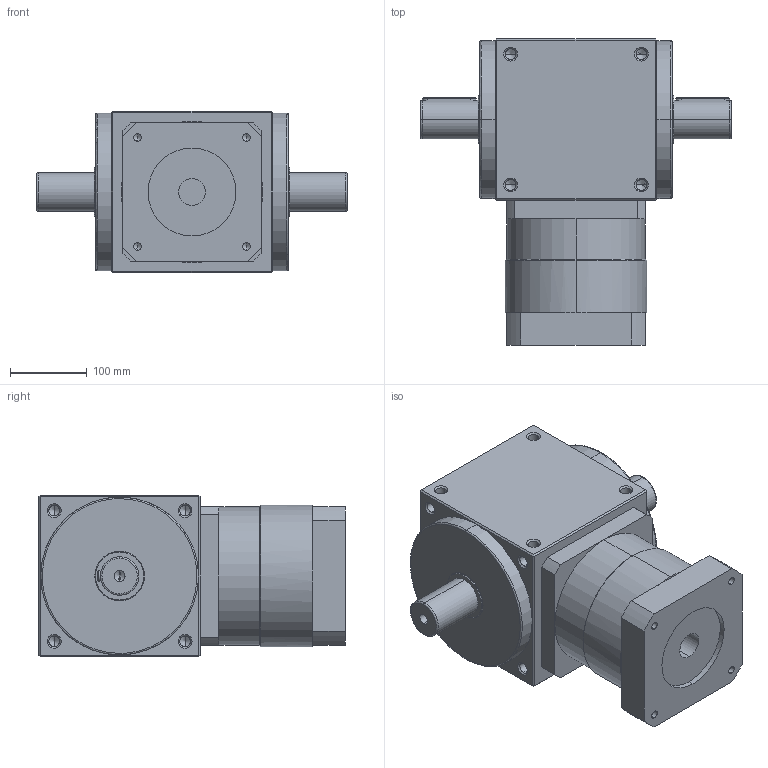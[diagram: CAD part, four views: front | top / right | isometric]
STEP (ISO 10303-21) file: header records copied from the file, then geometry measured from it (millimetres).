
FILE_DESCRIPTION (( 'STEP AP214' ), '1' );
FILE_NAME ('AT210-FL-L2--35-114.3-200-M12-SK.STEP', '2020-11-21T02:27:05', ( '微软用户' ), ( '微软中国' ), 'SwSTEP 2.0', 'SolidWorks 2014', '' );
FILE_SCHEMA (( 'AUTOMOTIVE_DESIGN' ));
Length unit declared in the file: millimetre
Products named in the file (2): AT210-FL-L2--35-114.3-200-M12-SK
Bounding box: 404 x 398 x 210 mm (x, y, z)
Volume: 15854360 mm3; surface area: 546602.8 mm2
Topology: 2 solids, 2 shells, 305 faces, 747 edges, 408 vertices
Faces by surface type: cylinder 126, cone 103, plane 68, bspline 8
Entity records: 11438 total; most frequent: CARTESIAN_POINT 2070, DIRECTION 1407, ORIENTED_EDGE 1390, EDGE_CURVE 695, AXIS2_PLACEMENT_3D 537, VERTEX_POINT 408, EDGE_LOOP 343, LINE 333
